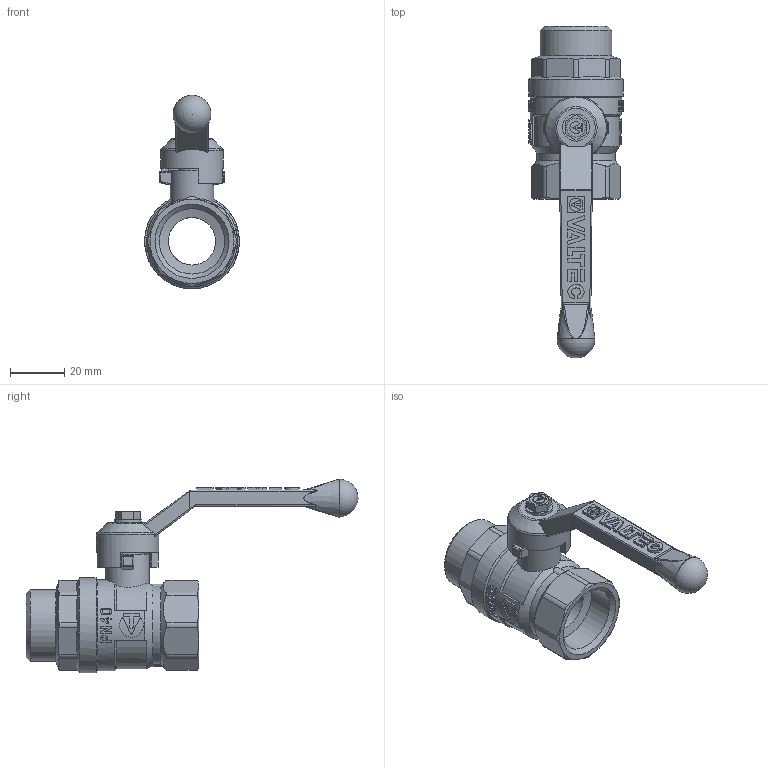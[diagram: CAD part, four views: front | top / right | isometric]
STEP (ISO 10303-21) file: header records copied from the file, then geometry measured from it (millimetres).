
FILE_DESCRIPTION(('STEP AP203'), '1');
FILE_NAME('VT.121.N.05', '', ('UNSPECIFIED'), ('UNSPECIFIED'), 'C3D Converter', 'C3D Toolkit', '');
FILE_SCHEMA(('CONFIG_CONTROL_DESIGN'));
Length unit declared in the file: millimetre
Bounding box: 35 x 122.5 x 71.4 mm (x, y, z)
Volume: 42229.7 mm3; surface area: 17699.4 mm2
Topology: 2 solids, 2 shells, 624 faces, 1640 edges, 1064 vertices
Faces by surface type: plane 393, cylinder 170, bspline 26, cone 23, sphere 9, torus 2, extrusion 1
Full cylindrical faces by diameter (mm): 7 x1, 10 x1, 10.2 x1, 16 x1, 17.5 x1, 20 x1, 23 x1, 24.118 x1, 26.441 x1, 33.6 x1, 35 x1
Entity records: 26361 total; most frequent: CARTESIAN_POINT 11567, ORIENTED_EDGE 3206, DIRECTION 2781, EDGE_CURVE 1603, VERTEX_POINT 1062, VECTOR 1019, LINE 1018, AXIS2_PLACEMENT_3D 881
